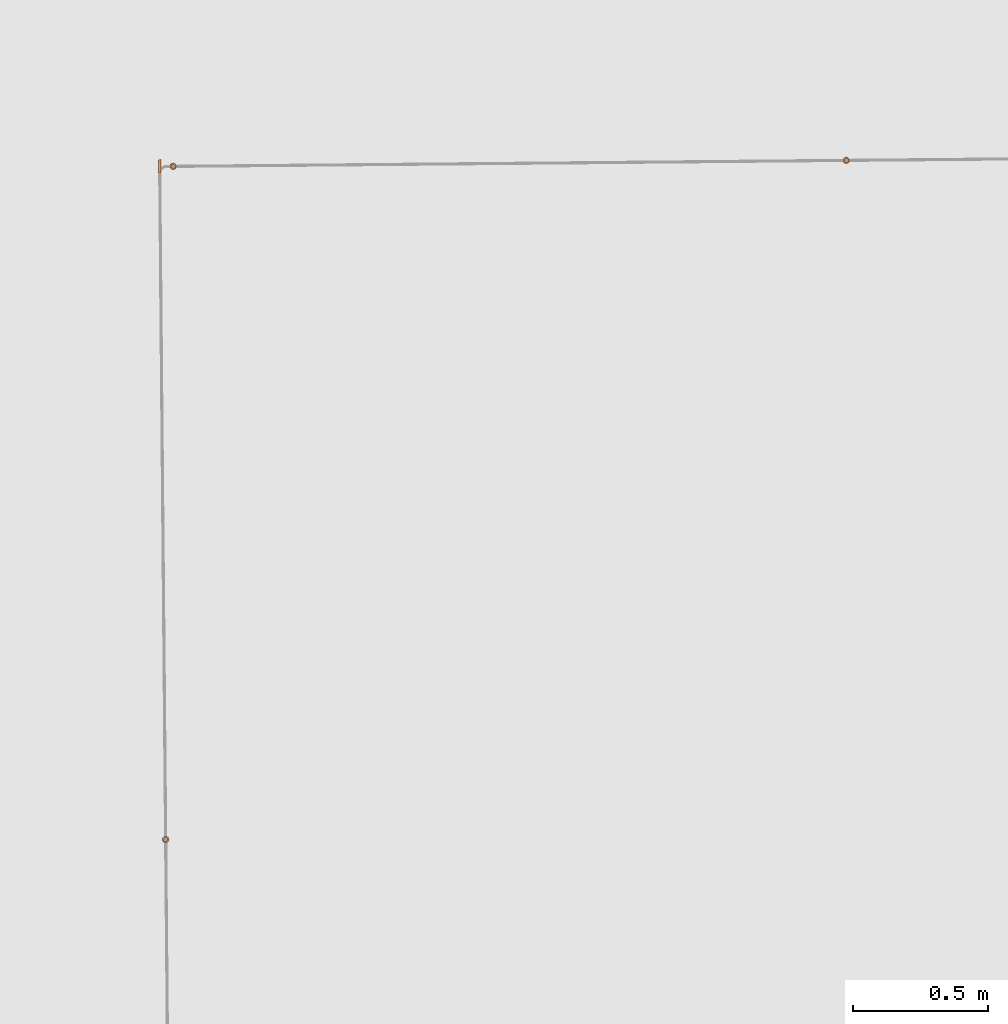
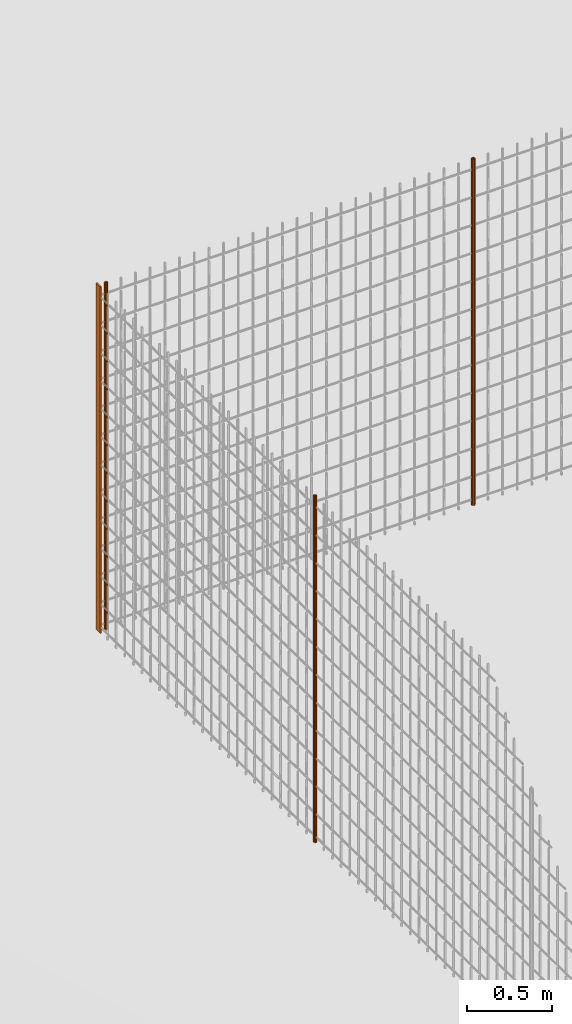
# One storey, part 19 of 1809: 4 proxies, 1 element without a shape of its own.
"""IFC2X3 building model written with IfcOpenShell, lengths in millimetres."""

from ifc_helpers import new_model, entity, si_unit, converted_unit, derived_unit, money_unit, direction, frame, origin_with_axes, place, context, subcontext, project, spatial, faceted_brep, source, transform, mapped, material, type_object, element, aggregate, save


model = new_model("IFC2X3")

# Units and contexts
model_context = context("Model", 3, precision=0.01, world=origin_with_axes(), true_north=direction((0.0, 1.0)))
body_context = subcontext(model_context, "Body", "Model", "MODEL_VIEW")
ifc_project = project(units=[si_unit("LENGTHUNIT", "METRE", prefix="MILLI"), si_unit("AREAUNIT", "SQUARE_METRE"), si_unit("VOLUMEUNIT", "CUBIC_METRE"), converted_unit("PLANEANGLEUNIT", "DEGREE", entity("IfcPlaneAngleMeasure", 0.0174532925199), si_unit("PLANEANGLEUNIT", "RADIAN"), dimensions=[0, 0, 0, 0, 0, 0, 0]), si_unit("SOLIDANGLEUNIT", "STERADIAN"), money_unit("EUR"), converted_unit("TIMEUNIT", "Year", entity("IfcTimeMeasure", 31556926.0), si_unit("TIMEUNIT", "SECOND"), dimensions=[0, 0, 1, 0, 0, 0, 0]), si_unit("MASSUNIT", "GRAM", prefix="KILO"), si_unit("THERMODYNAMICTEMPERATUREUNIT", "DEGREE_CELSIUS"), si_unit("LUMINOUSINTENSITYUNIT", "LUMEN"), si_unit("ENERGYUNIT", "JOULE", prefix="MEGA"), derived_unit("THERMALCONDUCTANCEUNIT", [(si_unit("POWERUNIT", "WATT"), 1), (si_unit("LENGTHUNIT", "METRE"), -1), (si_unit("THERMODYNAMICTEMPERATUREUNIT", "KELVIN"), -1)]), derived_unit("SPECIFICHEATCAPACITYUNIT", [(si_unit("ENERGYUNIT", "JOULE"), 1), (si_unit("MASSUNIT", "GRAM", prefix="KILO"), -1), (si_unit("THERMODYNAMICTEMPERATUREUNIT", "KELVIN"), -1)]), derived_unit("MASSDENSITYUNIT", [(si_unit("MASSUNIT", "GRAM", prefix="KILO"), 1), (si_unit("VOLUMEUNIT", "CUBIC_METRE"), -1)])], contexts=[model_context])

# Site, building, storey
site_placement = place(None, origin_with_axes())
site = spatial("IfcSite", under=ifc_project, at=site_placement, Name="Politse- ja Piirivalveameti ning Päästeameti ühishoone", CompositionType="ELEMENT")
building_placement = place(site_placement, origin_with_axes())
building = spatial("IfcBuilding", under=site, at=building_placement, Name="Politse- ja Piirivalveameti ning Päästeameti ühishoone", CompositionType="ELEMENT")
storey_placement = place(building_placement, origin_with_axes())
storey = spatial("IfcBuildingStorey", under=building, at=storey_placement, Name="Esimene korrus", CompositionType="ELEMENT", Elevation=0.0)

# Proxies
building_element_proxy_type_1 = type_object("IfcBuildingElementProxyType", Name="Railing Type", PredefinedType="NOTDEFINED")
proxy_1_placement = place(storey_placement, frame((-16775.8601056, 25156.7555964, 0.0), z_axis=(0.0, 0.0, 1.0), x_axis=(1.0, 0.0, 0.0)))
proxy_1 = element("IfcBuildingElementProxy", 1, at=proxy_1_placement, inside=storey, type_object=building_element_proxy_type_1, Name="KENNELI PIIRE")
ifc_material = material(Name="Teras - Konstruktsioon")
building_element_proxy_type_2 = type_object("IfcBuildingElementProxyType", Name="IfcBuildingElementProxy", PredefinedType="NOTDEFINED")
shared_shape_1 = source(origin_with_axes(), body_context, "Body", "Brep", [
    faceted_brep([(25.0, 5.0, 0.0), (-25.0, 5.0, 0.0), (-25.0, 4.99999999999, 2480.0), (25.0, 4.99999999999, 2480.0), (25.0, -5.0, 0.0), (-25.0, -5.0, 0.0), (-25.0, -5.00000000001, 2480.0), (25.0, -5.00000000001, 2480.0)], [[[0, 1, 2, 3]], [[0, 4, 5, 1]], [[1, 5, 6, 2]], [[3, 2, 6, 7]], [[4, 0, 3, 7]], [[5, 4, 7, 6]]]),
])
proxy_2_placement = place(proxy_1_placement, frame((-5025.02358654, -19.6965653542, 0.0), z_axis=(0.0, 0.0, 1.0), x_axis=(1.0, 0.0, 0.0)))
proxy_2 = element("IfcBuildingElementProxy", 2, at=proxy_2_placement, type_object=building_element_proxy_type_2, material=ifc_material, Name="PIIRDE POST - 001", context=body_context, shape_type="MappedRepresentation", body=[
    mapped(shared_shape_1, transform((0.0, 0.0, 0.0), x_axis=(-0.00889464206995, 0.999960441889, 0.0), y_axis=(-0.999960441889, -0.00889464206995, 0.0), z_axis=(0.0, 0.0, 1.0))),
])
shared_shape_2 = source(origin_with_axes(), body_context, "Body", "Brep", [
    faceted_brep([(0.0, -12.0, 0.0), (2.083778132, -11.8176930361, 0.0), (2.08377813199, -11.8176930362, 2480.0), (0.0, -12.0, 2480.0), (-2.083778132, -11.8176930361, 0.0), (-4.10424171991, -11.2763114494, 0.0), (-6.0, -10.3923048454, 0.0), (-7.71345131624, -9.19253331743, 0.0), (-9.19253331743, -7.71345131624, 0.0), (-10.3923048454, -6.0, 0.0), (-11.2763114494, -4.10424171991, 0.0), (-11.8176930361, -2.083778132, 0.0), (-12.0, 0.0, 0.0), (-11.8176930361, 2.083778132, 0.0), (-11.2763114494, 4.10424171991, 0.0), (-10.3923048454, 6.0, 0.0), (-9.19253331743, 7.71345131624, 0.0), (-7.71345131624, 9.19253331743, 0.0), (-6.0, 10.3923048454, 0.0), (-4.10424171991, 11.2763114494, 0.0), (-2.083778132, 11.8176930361, 0.0), (0.0, 12.0, 0.0), (2.083778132, 11.8176930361, 0.0), (4.10424171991, 11.2763114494, 0.0), (6.0, 10.3923048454, 0.0), (7.71345131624, 9.19253331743, 0.0), (9.19253331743, 7.71345131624, 0.0), (10.3923048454, 6.0, 0.0), (11.2763114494, 4.10424171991, 0.0), (11.8176930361, 2.083778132, 0.0), (12.0, 0.0, 0.0), (11.8176930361, -2.083778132, 0.0), (11.2763114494, -4.10424171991, 0.0), (10.3923048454, -6.0, 0.0), (9.19253331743, -7.71345131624, 0.0), (7.71345131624, -9.19253331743, 0.0), (6.0, -10.3923048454, 0.0), (4.10424171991, -11.2763114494, 0.0), (0.0, -7.0, 0.0), (1.21553724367, -6.89365427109, 0.0), (2.39414100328, -6.5778483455, 0.0), (3.5, -6.06217782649, 0.0), (4.49951326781, -5.36231110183, 0.0), (5.36231110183, -4.49951326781, 0.0), (6.06217782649, -3.5, 0.0), (6.5778483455, -2.39414100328, 0.0), (6.89365427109, -1.21553724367, 0.0), (7.0, 0.0, 0.0), (6.89365427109, 1.21553724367, 0.0), (6.5778483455, 2.39414100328, 0.0), (6.06217782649, 3.5, 0.0), (5.36231110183, 4.49951326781, 0.0), (4.49951326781, 5.36231110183, 0.0), (3.5, 6.06217782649, 0.0), (2.39414100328, 6.5778483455, 0.0), (1.21553724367, 6.89365427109, 0.0), (0.0, 7.0, 0.0), (-1.21553724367, 6.89365427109, 0.0), (-2.39414100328, 6.5778483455, 0.0), (-3.5, 6.06217782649, 0.0), (-4.49951326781, 5.36231110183, 0.0), (-5.36231110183, 4.49951326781, 0.0), (-6.06217782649, 3.5, 0.0), (-6.5778483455, 2.39414100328, 0.0), (-6.89365427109, 1.21553724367, 0.0), (-7.0, 0.0, 0.0), (-6.89365427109, -1.21553724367, 0.0), (-6.5778483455, -2.39414100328, 0.0), (-6.06217782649, -3.5, 0.0), (-5.36231110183, -4.49951326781, 0.0), (-4.49951326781, -5.36231110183, 0.0), (-3.5, -6.06217782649, 0.0), (-2.39414100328, -6.5778483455, 0.0), (-1.21553724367, -6.89365427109, 0.0), (4.1042417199, -11.2763114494, 2480.0), (5.99999999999, -10.3923048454, 2480.0), (7.71345131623, -9.19253331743, 2480.0), (9.19253331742, -7.71345131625, 2480.0), (10.3923048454, -6.00000000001, 2480.0), (11.2763114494, -4.10424171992, 2480.0), (11.8176930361, -2.08377813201, 2480.0), (12.0, 0.0, 2480.0), (11.8176930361, 2.083778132, 2480.0), (11.2763114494, 4.1042417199, 2480.0), (10.3923048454, 5.99999999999, 2480.0), (9.19253331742, 7.71345131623, 2480.0), (7.71345131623, 9.19253331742, 2480.0), (5.99999999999, 10.3923048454, 2480.0), (4.1042417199, 11.2763114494, 2480.0), (2.08377813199, 11.8176930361, 2480.0), (0.0, 12.0, 2480.0), (-2.08377813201, 11.8176930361, 2480.0), (-4.10424171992, 11.2763114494, 2480.0), (-6.00000000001, 10.3923048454, 2480.0), (-7.71345131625, 9.19253331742, 2480.0), (-9.19253331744, 7.71345131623, 2480.0), (-10.3923048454, 5.99999999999, 2480.0), (-11.2763114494, 4.1042417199, 2480.0), (-11.8176930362, 2.083778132, 2480.0), (-12.0, 0.0, 2480.0), (-11.8176930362, -2.08377813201, 2480.0), (-11.2763114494, -4.10424171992, 2480.0), (-10.3923048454, -6.00000000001, 2480.0), (-9.19253331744, -7.71345131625, 2480.0), (-7.71345131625, -9.19253331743, 2480.0), (-6.00000000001, -10.3923048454, 2480.0), (-4.10424171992, -11.2763114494, 2480.0), (-2.08377813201, -11.8176930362, 2480.0), (0.0, -7.00000000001, 2480.0), (-1.21553724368, -6.89365427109, 2480.0), (-2.39414100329, -6.57784834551, 2480.0), (-3.50000000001, -6.0621778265, 2480.0), (-4.49951326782, -5.36231110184, 2480.0), (-5.36231110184, -4.49951326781, 2480.0), (-6.0621778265, -3.50000000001, 2480.0), (-6.57784834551, -2.39414100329, 2480.0), (-6.8936542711, -1.21553724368, 2480.0), (-7.00000000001, 0.0, 2480.0), (-6.8936542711, 1.21553724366, 2480.0), (-6.57784834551, 2.39414100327, 2480.0), (-6.0621778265, 3.49999999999, 2480.0), (-5.36231110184, 4.4995132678, 2480.0), (-4.49951326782, 5.36231110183, 2480.0), (-3.50000000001, 6.06217782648, 2480.0), (-2.39414100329, 6.57784834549, 2480.0), (-1.21553724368, 6.89365427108, 2480.0), (0.0, 6.99999999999, 2480.0), (1.21553724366, 6.89365427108, 2480.0), (2.39414100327, 6.57784834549, 2480.0), (3.49999999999, 6.06217782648, 2480.0), (4.49951326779, 5.36231110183, 2480.0), (5.36231110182, 4.4995132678, 2480.0), (6.06217782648, 3.49999999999, 2480.0), (6.57784834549, 2.39414100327, 2480.0), (6.89365427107, 1.21553724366, 2480.0), (6.99999999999, 0.0, 2480.0), (6.89365427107, -1.21553724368, 2480.0), (6.57784834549, -2.39414100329, 2480.0), (6.06217782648, -3.50000000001, 2480.0), (5.36231110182, -4.49951326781, 2480.0), (4.49951326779, -5.36231110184, 2480.0), (3.49999999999, -6.0621778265, 2480.0), (2.39414100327, -6.57784834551, 2480.0), (1.21553724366, -6.89365427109, 2480.0)], [[[0, 1, 2, 3]], [[0, 4, 5, 6, 7, 8, 9, 10, 11, 12, 13, 14, 15, 16, 17, 18, 19, 20, 21, 22, 23, 24, 25, 26, 27, 28, 29, 30, 31, 32, 33, 34, 35, 36, 37, 1], [38, 39, 40, 41, 42, 43, 44, 45, 46, 47, 48, 49, 50, 51, 52, 53, 54, 55, 56, 57, 58, 59, 60, 61, 62, 63, 64, 65, 66, 67, 68, 69, 70, 71, 72, 73]], [[1, 37, 74, 2]], [[3, 2, 74, 75, 76, 77, 78, 79, 80, 81, 82, 83, 84, 85, 86, 87, 88, 89, 90, 91, 92, 93, 94, 95, 96, 97, 98, 99, 100, 101, 102, 103, 104, 105, 106, 107], [108, 109, 110, 111, 112, 113, 114, 115, 116, 117, 118, 119, 120, 121, 122, 123, 124, 125, 126, 127, 128, 129, 130, 131, 132, 133, 134, 135, 136, 137, 138, 139, 140, 141, 142, 143]], [[4, 0, 3, 107]], [[5, 4, 107, 106]], [[6, 5, 106, 105]], [[7, 6, 105, 104]], [[8, 7, 104, 103]], [[9, 8, 103, 102]], [[10, 9, 102, 101]], [[11, 10, 101, 100]], [[12, 11, 100, 99]], [[13, 12, 99, 98]], [[14, 13, 98, 97]], [[15, 14, 97, 96]], [[16, 15, 96, 95]], [[17, 16, 95, 94]], [[18, 17, 94, 93]], [[19, 18, 93, 92]], [[20, 19, 92, 91]], [[21, 20, 91, 90]], [[22, 21, 90, 89]], [[23, 22, 89, 88]], [[24, 23, 88, 87]], [[25, 24, 87, 86]], [[26, 25, 86, 85]], [[27, 26, 85, 84]], [[28, 27, 84, 83]], [[29, 28, 83, 82]], [[30, 29, 82, 81]], [[31, 30, 81, 80]], [[32, 31, 80, 79]], [[33, 32, 79, 78]], [[34, 33, 78, 77]], [[35, 34, 77, 76]], [[36, 35, 76, 75]], [[37, 36, 75, 74]], [[39, 38, 108, 143]], [[40, 39, 143, 142]], [[41, 40, 142, 141]], [[42, 41, 141, 140]], [[43, 42, 140, 139]], [[44, 43, 139, 138]], [[45, 44, 138, 137]], [[46, 45, 137, 136]], [[47, 46, 136, 135]], [[48, 47, 135, 134]], [[49, 48, 134, 133]], [[50, 49, 133, 132]], [[51, 50, 132, 131]], [[52, 51, 131, 130]], [[53, 52, 130, 129]], [[54, 53, 129, 128]], [[55, 54, 128, 127]], [[56, 55, 127, 126]], [[57, 56, 126, 125]], [[58, 57, 125, 124]], [[59, 58, 124, 123]], [[60, 59, 123, 122]], [[61, 60, 122, 121]], [[62, 61, 121, 120]], [[63, 62, 120, 119]], [[64, 63, 119, 118]], [[65, 64, 118, 117]], [[66, 65, 117, 116]], [[67, 66, 116, 115]], [[68, 67, 115, 114]], [[69, 68, 114, 113]], [[70, 69, 113, 112]], [[71, 70, 112, 111]], [[72, 71, 111, 110]], [[73, 72, 110, 109]], [[38, 73, 109, 108]]]),
])
proxy_3_placement = place(proxy_1_placement, frame((-2475.1021119, 2.98497070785, 0.0), z_axis=(0.0, 0.0, 1.0), x_axis=(1.0, 0.0, 0.0)))
proxy_3 = element("IfcBuildingElementProxy", 3, at=proxy_3_placement, type_object=building_element_proxy_type_2, material=ifc_material, Name="SISEPOST - 001", context=body_context, shape_type="MappedRepresentation", body=[
    mapped(shared_shape_2, transform((0.0, 0.0, 0.0), x_axis=(-0.00889464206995, 0.999960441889, 0.0), y_axis=(-0.999960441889, -0.00889464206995, 0.0), z_axis=(0.0, 0.0, 1.0))),
])
proxy_4_placement = place(proxy_1_placement, frame((-4975.00321663, -19.251634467, 0.0), z_axis=(0.0, 0.0, 1.0), x_axis=(1.0, 0.0, 0.0)))
proxy_4 = element("IfcBuildingElementProxy", 4, at=proxy_4_placement, type_object=building_element_proxy_type_2, material=ifc_material, Name="SISEPOST - 001", context=body_context, shape_type="MappedRepresentation", body=[
    mapped(shared_shape_2, transform((0.0, 0.0, 0.0), x_axis=(-0.00889464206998, 0.999960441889, 0.0), y_axis=(-0.999960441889, -0.00889464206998, 0.0), z_axis=(0.0, 0.0, 1.0))),
])
shared_shape_3 = source(origin_with_axes(), body_context, "Body", "Brep", [
    faceted_brep([(0.0, -12.0, 0.0), (2.083778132, -11.8176930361, 0.0), (2.083778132, -11.8176930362, 2480.0), (0.0, -12.0, 2480.0), (-2.083778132, -11.8176930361, 0.0), (-4.10424171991, -11.2763114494, 0.0), (-6.0, -10.3923048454, 0.0), (-7.71345131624, -9.19253331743, 0.0), (-9.19253331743, -7.71345131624, 0.0), (-10.3923048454, -6.0, 0.0), (-11.2763114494, -4.10424171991, 0.0), (-11.8176930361, -2.083778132, 0.0), (-12.0, 0.0, 0.0), (-11.8176930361, 2.083778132, 0.0), (-11.2763114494, 4.10424171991, 0.0), (-10.3923048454, 6.0, 0.0), (-9.19253331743, 7.71345131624, 0.0), (-7.71345131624, 9.19253331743, 0.0), (-6.0, 10.3923048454, 0.0), (-4.10424171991, 11.2763114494, 0.0), (-2.083778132, 11.8176930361, 0.0), (0.0, 12.0, 0.0), (2.083778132, 11.8176930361, 0.0), (4.10424171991, 11.2763114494, 0.0), (6.0, 10.3923048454, 0.0), (7.71345131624, 9.19253331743, 0.0), (9.19253331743, 7.71345131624, 0.0), (10.3923048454, 6.0, 0.0), (11.2763114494, 4.10424171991, 0.0), (11.8176930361, 2.083778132, 0.0), (12.0, 0.0, 0.0), (11.8176930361, -2.083778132, 0.0), (11.2763114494, -4.10424171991, 0.0), (10.3923048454, -6.0, 0.0), (9.19253331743, -7.71345131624, 0.0), (7.71345131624, -9.19253331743, 0.0), (6.0, -10.3923048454, 0.0), (4.10424171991, -11.2763114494, 0.0), (0.0, -7.0, 0.0), (1.21553724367, -6.89365427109, 0.0), (2.39414100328, -6.5778483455, 0.0), (3.5, -6.06217782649, 0.0), (4.49951326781, -5.36231110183, 0.0), (5.36231110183, -4.49951326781, 0.0), (6.06217782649, -3.5, 0.0), (6.5778483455, -2.39414100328, 0.0), (6.89365427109, -1.21553724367, 0.0), (7.0, 0.0, 0.0), (6.89365427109, 1.21553724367, 0.0), (6.5778483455, 2.39414100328, 0.0), (6.06217782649, 3.5, 0.0), (5.36231110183, 4.49951326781, 0.0), (4.49951326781, 5.36231110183, 0.0), (3.5, 6.06217782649, 0.0), (2.39414100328, 6.5778483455, 0.0), (1.21553724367, 6.89365427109, 0.0), (0.0, 7.0, 0.0), (-1.21553724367, 6.89365427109, 0.0), (-2.39414100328, 6.5778483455, 0.0), (-3.5, 6.06217782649, 0.0), (-4.49951326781, 5.36231110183, 0.0), (-5.36231110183, 4.49951326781, 0.0), (-6.06217782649, 3.5, 0.0), (-6.5778483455, 2.39414100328, 0.0), (-6.89365427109, 1.21553724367, 0.0), (-7.0, 0.0, 0.0), (-6.89365427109, -1.21553724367, 0.0), (-6.5778483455, -2.39414100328, 0.0), (-6.06217782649, -3.5, 0.0), (-5.36231110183, -4.49951326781, 0.0), (-4.49951326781, -5.36231110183, 0.0), (-3.5, -6.06217782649, 0.0), (-2.39414100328, -6.5778483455, 0.0), (-1.21553724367, -6.89365427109, 0.0), (4.1042417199, -11.2763114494, 2480.0), (5.99999999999, -10.3923048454, 2480.0), (7.71345131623, -9.19253331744, 2480.0), (9.19253331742, -7.71345131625, 2480.0), (10.3923048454, -6.00000000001, 2480.0), (11.2763114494, -4.10424171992, 2480.0), (11.8176930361, -2.08377813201, 2480.0), (12.0, 0.0, 2480.0), (11.8176930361, 2.08377813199, 2480.0), (11.2763114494, 4.1042417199, 2480.0), (10.3923048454, 5.99999999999, 2480.0), (9.19253331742, 7.71345131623, 2480.0), (7.71345131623, 9.19253331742, 2480.0), (5.99999999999, 10.3923048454, 2480.0), (4.1042417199, 11.2763114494, 2480.0), (2.083778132, 11.8176930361, 2480.0), (0.0, 12.0, 2480.0), (-2.08377813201, 11.8176930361, 2480.0), (-4.10424171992, 11.2763114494, 2480.0), (-6.00000000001, 10.3923048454, 2480.0), (-7.71345131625, 9.19253331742, 2480.0), (-9.19253331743, 7.71345131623, 2480.0), (-10.3923048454, 5.99999999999, 2480.0), (-11.2763114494, 4.1042417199, 2480.0), (-11.8176930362, 2.08377813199, 2480.0), (-12.0, 0.0, 2480.0), (-11.8176930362, -2.08377813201, 2480.0), (-11.2763114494, -4.10424171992, 2480.0), (-10.3923048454, -6.00000000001, 2480.0), (-9.19253331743, -7.71345131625, 2480.0), (-7.71345131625, -9.19253331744, 2480.0), (-6.00000000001, -10.3923048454, 2480.0), (-4.10424171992, -11.2763114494, 2480.0), (-2.08377813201, -11.8176930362, 2480.0), (0.0, -7.00000000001, 2480.0), (-1.21553724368, -6.8936542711, 2480.0), (-2.39414100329, -6.57784834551, 2480.0), (-3.50000000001, -6.0621778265, 2480.0), (-4.49951326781, -5.36231110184, 2480.0), (-5.36231110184, -4.49951326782, 2480.0), (-6.0621778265, -3.50000000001, 2480.0), (-6.57784834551, -2.39414100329, 2480.0), (-6.89365427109, -1.21553724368, 2480.0), (-7.00000000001, 0.0, 2480.0), (-6.89365427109, 1.21553724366, 2480.0), (-6.57784834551, 2.39414100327, 2480.0), (-6.0621778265, 3.49999999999, 2480.0), (-5.36231110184, 4.4995132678, 2480.0), (-4.49951326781, 5.36231110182, 2480.0), (-3.50000000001, 6.06217782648, 2480.0), (-2.39414100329, 6.57784834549, 2480.0), (-1.21553724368, 6.89365427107, 2480.0), (0.0, 6.99999999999, 2480.0), (1.21553724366, 6.89365427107, 2480.0), (2.39414100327, 6.57784834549, 2480.0), (3.49999999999, 6.06217782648, 2480.0), (4.4995132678, 5.36231110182, 2480.0), (5.36231110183, 4.4995132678, 2480.0), (6.06217782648, 3.49999999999, 2480.0), (6.57784834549, 2.39414100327, 2480.0), (6.89365427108, 1.21553724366, 2480.0), (6.99999999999, 0.0, 2480.0), (6.89365427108, -1.21553724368, 2480.0), (6.57784834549, -2.39414100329, 2480.0), (6.06217782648, -3.50000000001, 2480.0), (5.36231110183, -4.49951326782, 2480.0), (4.4995132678, -5.36231110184, 2480.0), (3.49999999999, -6.0621778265, 2480.0), (2.39414100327, -6.57784834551, 2480.0), (1.21553724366, -6.8936542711, 2480.0)], [[[0, 1, 2, 3]], [[0, 4, 5, 6, 7, 8, 9, 10, 11, 12, 13, 14, 15, 16, 17, 18, 19, 20, 21, 22, 23, 24, 25, 26, 27, 28, 29, 30, 31, 32, 33, 34, 35, 36, 37, 1], [38, 39, 40, 41, 42, 43, 44, 45, 46, 47, 48, 49, 50, 51, 52, 53, 54, 55, 56, 57, 58, 59, 60, 61, 62, 63, 64, 65, 66, 67, 68, 69, 70, 71, 72, 73]], [[1, 37, 74, 2]], [[3, 2, 74, 75, 76, 77, 78, 79, 80, 81, 82, 83, 84, 85, 86, 87, 88, 89, 90, 91, 92, 93, 94, 95, 96, 97, 98, 99, 100, 101, 102, 103, 104, 105, 106, 107], [108, 109, 110, 111, 112, 113, 114, 115, 116, 117, 118, 119, 120, 121, 122, 123, 124, 125, 126, 127, 128, 129, 130, 131, 132, 133, 134, 135, 136, 137, 138, 139, 140, 141, 142, 143]], [[4, 0, 3, 107]], [[5, 4, 107, 106]], [[6, 5, 106, 105]], [[7, 6, 105, 104]], [[8, 7, 104, 103]], [[9, 8, 103, 102]], [[10, 9, 102, 101]], [[11, 10, 101, 100]], [[12, 11, 100, 99]], [[13, 12, 99, 98]], [[14, 13, 98, 97]], [[15, 14, 97, 96]], [[16, 15, 96, 95]], [[17, 16, 95, 94]], [[18, 17, 94, 93]], [[19, 18, 93, 92]], [[20, 19, 92, 91]], [[21, 20, 91, 90]], [[22, 21, 90, 89]], [[23, 22, 89, 88]], [[24, 23, 88, 87]], [[25, 24, 87, 86]], [[26, 25, 86, 85]], [[27, 26, 85, 84]], [[28, 27, 84, 83]], [[29, 28, 83, 82]], [[30, 29, 82, 81]], [[31, 30, 81, 80]], [[32, 31, 80, 79]], [[33, 32, 79, 78]], [[34, 33, 78, 77]], [[35, 34, 77, 76]], [[36, 35, 76, 75]], [[37, 36, 75, 74]], [[39, 38, 108, 143]], [[40, 39, 143, 142]], [[41, 40, 142, 141]], [[42, 41, 141, 140]], [[43, 42, 140, 139]], [[44, 43, 139, 138]], [[45, 44, 138, 137]], [[46, 45, 137, 136]], [[47, 46, 136, 135]], [[48, 47, 135, 134]], [[49, 48, 134, 133]], [[50, 49, 133, 132]], [[51, 50, 132, 131]], [[52, 51, 131, 130]], [[53, 52, 130, 129]], [[54, 53, 129, 128]], [[55, 54, 128, 127]], [[56, 55, 127, 126]], [[57, 56, 126, 125]], [[58, 57, 125, 124]], [[59, 58, 124, 123]], [[60, 59, 123, 122]], [[61, 60, 122, 121]], [[62, 61, 121, 120]], [[63, 62, 120, 119]], [[64, 63, 119, 118]], [[65, 64, 118, 117]], [[66, 65, 117, 116]], [[67, 66, 116, 115]], [[68, 67, 115, 114]], [[69, 68, 114, 113]], [[70, 69, 113, 112]], [[71, 70, 112, 111]], [[72, 71, 111, 110]], [[73, 72, 110, 109]], [[38, 73, 109, 108]]]),
])
proxy_5_placement = place(proxy_1_placement, frame((-5002.78698139, -2519.59767008, 0.0), z_axis=(0.0, 0.0, 1.0), x_axis=(1.0, 0.0, 0.0)))
proxy_5 = element("IfcBuildingElementProxy", 5, at=proxy_5_placement, type_object=building_element_proxy_type_2, material=ifc_material, Name="SISEPOST - 001", context=body_context, shape_type="MappedRepresentation", body=[
    mapped(shared_shape_3, transform((0.0, 0.0, 0.0), x_axis=(-0.999960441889, -0.00889464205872, 0.0), y_axis=(0.00889464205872, -0.999960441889, 0.0), z_axis=(0.0, 0.0, 1.0))),
])
aggregate(proxy_1, [proxy_2, proxy_3, proxy_4, proxy_5])

save(model, "model.ifc")
